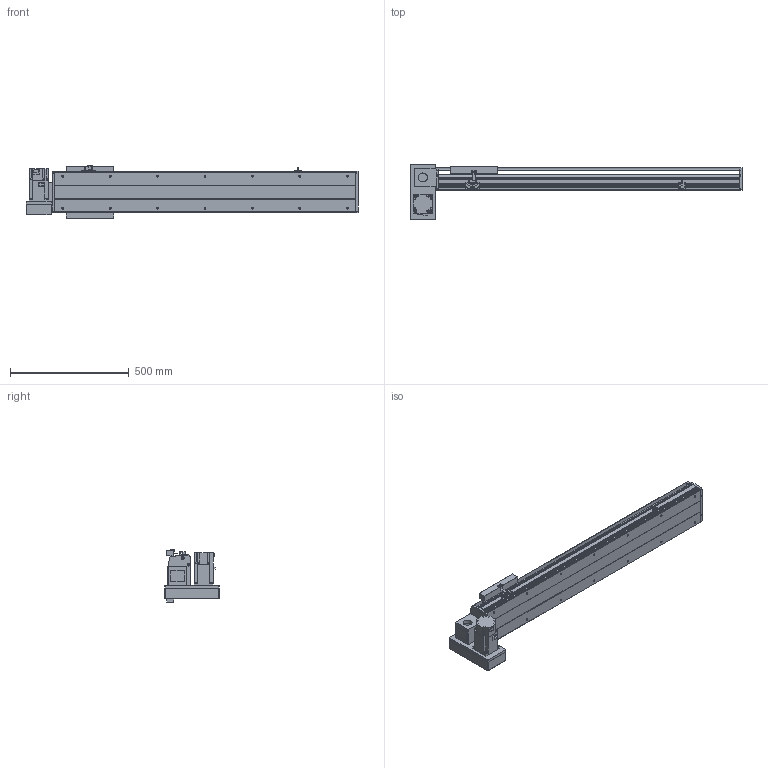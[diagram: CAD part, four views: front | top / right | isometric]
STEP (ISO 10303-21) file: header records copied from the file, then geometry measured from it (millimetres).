
FILE_DESCRIPTION(/* description */ ('STEP AP214'),/* implementation_level */ '2;1');
FILE_NAME(/* name */ 'PBS200-P40-S900-LD-T75-C1-N(0)',/* time_stamp */ '2022-06-11T08:44:10+02:00',/* author */ ('License CC BY-ND 4.0'),/* organization */ ('CADENAS'),/* preprocessor_version */ 'ST-DEVELOPER v18.102',/* originating_system */ 'PARTsolutions',/* authorisation */ ' ');
FILE_SCHEMA (('AUTOMOTIVE_DESIGN {1 0 10303 214 3 1 1}'));
Length unit declared in the file: millimetre
Products named in the file (7): PBS200-P40-S900-LD-T75-C1-N(0); PBS200_sensor; PBS200_plant; PBS200_sliser; T75-p1; PBS200T-LD_motors; PBS200-S900()_body
Assembly tree (8 placements, depth 2):
  PBS200-P40-S900-LD-T75-C1-N(0)
    PBS200_sensor  x3
    PBS200_plant
    PBS200_sliser
    T75-p1
    PBS200T-LD_motors
    PBS200-S900()_body
Bounding box: 1400 x 230 x 221 mm (x, y, z)
Volume: 10613222.5 mm3; surface area: 1720874.5 mm2
Topology: 8 solids, 8 shells, 914 faces, 2364 edges, 1542 vertices
Faces by surface type: plane 572, cylinder 296, cone 46
Full cylindrical faces by diameter (mm): 2.459 x6, 3.242 x4, 4.5 x6, 4.917 x4, 5 x6, 6 x7, 6.6 x8, 6.647 x18, 8 x6, 10 x4, 12 x8, 38 x2, 40 x1, 70 x1
Entity records: 24461 total; most frequent: DIRECTION 4303, CARTESIAN_POINT 4174, ORIENTED_EDGE 3970, EDGE_CURVE 1985, AXIS2_PLACEMENT_3D 1495, VERTEX_POINT 1366, LINE 1313, VECTOR 1313
